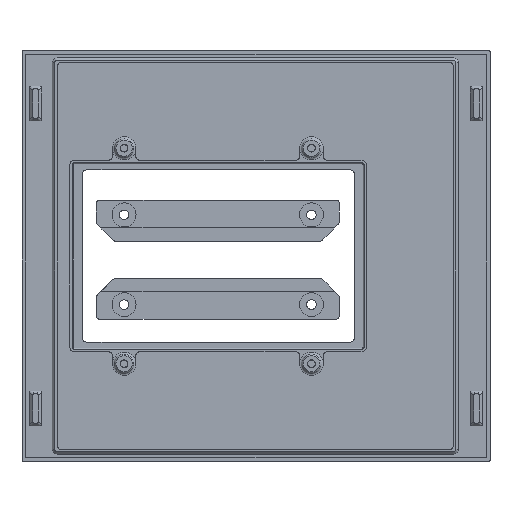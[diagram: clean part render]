
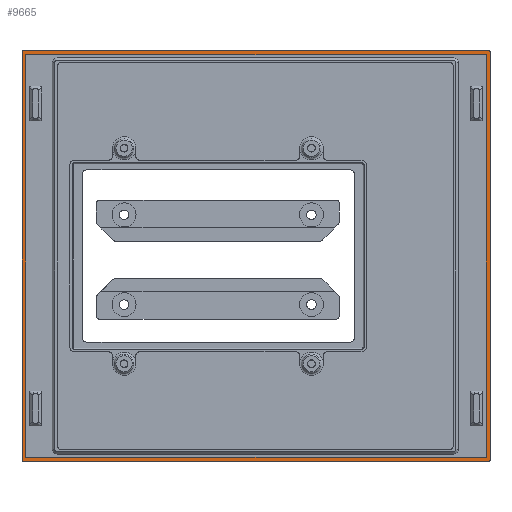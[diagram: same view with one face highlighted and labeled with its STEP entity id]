
A CAD part, top view. The second image highlights one B-rep face of the part: STEP entity #9665.
In plain terms, the highlighted planar face has unit normal (0, 0, 1).
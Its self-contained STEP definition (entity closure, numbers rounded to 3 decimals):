
#270=B_SPLINE_CURVE_WITH_KNOTS('',3,(#17057,#17058,#17059,#17060,#17061,
#17062,#17063,#17064,#17065,#17066),.UNSPECIFIED.,.F.,.F.,(4,3,3,4),(0.,
0.033,0.056,0.078),.UNSPECIFIED.);
#276=B_SPLINE_CURVE_WITH_KNOTS('',3,(#17314,#17315,#17316,#17317,#17318,
#17319,#17320,#17321,#17322,#17323),.UNSPECIFIED.,.F.,.F.,(4,3,3,4),(0.,
0.022,0.045,0.078),.UNSPECIFIED.);
#279=B_SPLINE_CURVE_WITH_KNOTS('',3,(#17561,#17562,#17563,#17564,#17565,
#17566,#17567,#17568,#17569,#17570),.UNSPECIFIED.,.F.,.F.,(4,3,3,4),(0.,
0.033,0.056,0.078),.UNSPECIFIED.);
#284=B_SPLINE_CURVE_WITH_KNOTS('',3,(#17675,#17676,#17677,#17678,#17679,
#17680,#17681,#17682,#17683,#17684),.UNSPECIFIED.,.F.,.F.,(4,3,3,4),(0.,
0.022,0.045,0.078),.UNSPECIFIED.);
#332=FACE_BOUND('',#1706,.T.);
#614=PLANE('',#10530);
#1132=FACE_OUTER_BOUND('',#1705,.T.);
#1705=EDGE_LOOP('',(#8827,#8828,#8829,#8830,#8831,#8832,#8833,#8834));
#1706=EDGE_LOOP('',(#8835,#8836,#8837,#8838));
#2443=LINE('',#17155,#3333);
#2449=LINE('',#17173,#3339);
#2511=LINE('',#17391,#3401);
#2519=LINE('',#17414,#3409);
#2563=LINE('',#17593,#3453);
#2567=LINE('',#17599,#3457);
#2588=LINE('',#17663,#3478);
#2592=LINE('',#17685,#3482);
#3333=VECTOR('',#12668,10.);
#3339=VECTOR('',#12678,10.);
#3401=VECTOR('',#12842,10.);
#3409=VECTOR('',#12858,10.);
#3453=VECTOR('',#12986,10.);
#3457=VECTOR('',#12992,10.);
#3478=VECTOR('',#13065,10.);
#3482=VECTOR('',#13073,10.);
#4582=VERTEX_POINT('',#17055);
#4583=VERTEX_POINT('',#17056);
#4606=VERTEX_POINT('',#17154);
#4611=VERTEX_POINT('',#17170);
#4612=VERTEX_POINT('',#17172);
#4649=VERTEX_POINT('',#17313);
#4669=VERTEX_POINT('',#17390);
#4676=VERTEX_POINT('',#17412);
#4713=VERTEX_POINT('',#17559);
#4714=VERTEX_POINT('',#17560);
#4717=VERTEX_POINT('',#17592);
#4735=VERTEX_POINT('',#17662);
#5878=EDGE_CURVE('',#4582,#4583,#270,.T.);
#5914=EDGE_CURVE('',#4583,#4606,#2443,.T.);
#5921=EDGE_CURVE('',#4611,#4612,#2449,.T.);
#5975=EDGE_CURVE('',#4606,#4649,#276,.T.);
#6009=EDGE_CURVE('',#4649,#4669,#2511,.F.);
#6020=EDGE_CURVE('',#4611,#4676,#2519,.T.);
#6080=EDGE_CURVE('',#4713,#4714,#279,.T.);
#6084=EDGE_CURVE('',#4717,#4612,#2563,.T.);
#6088=EDGE_CURVE('',#4713,#4582,#2567,.F.);
#6119=EDGE_CURVE('',#4714,#4735,#2588,.T.);
#6124=EDGE_CURVE('',#4735,#4669,#284,.T.);
#6125=EDGE_CURVE('',#4676,#4717,#2592,.T.);
#8827=ORIENTED_EDGE('',*,*,#6088,.F.);
#8828=ORIENTED_EDGE('',*,*,#6080,.T.);
#8829=ORIENTED_EDGE('',*,*,#6119,.T.);
#8830=ORIENTED_EDGE('',*,*,#6124,.T.);
#8831=ORIENTED_EDGE('',*,*,#6009,.F.);
#8832=ORIENTED_EDGE('',*,*,#5975,.F.);
#8833=ORIENTED_EDGE('',*,*,#5914,.F.);
#8834=ORIENTED_EDGE('',*,*,#5878,.F.);
#8835=ORIENTED_EDGE('',*,*,#6084,.T.);
#8836=ORIENTED_EDGE('',*,*,#5921,.F.);
#8837=ORIENTED_EDGE('',*,*,#6020,.T.);
#8838=ORIENTED_EDGE('',*,*,#6125,.T.);
#9665=ADVANCED_FACE('',(#1132,#332),#614,.T.);
#10530=AXIS2_PLACEMENT_3D('',#17674,#13071,#13072);
#12668=DIRECTION('',(-1.,0.,0.));
#12678=DIRECTION('',(1.,0.,0.));
#12842=DIRECTION('',(0.,-1.,0.));
#12858=DIRECTION('',(0.,1.,0.));
#12986=DIRECTION('',(0.,-1.,0.));
#12992=DIRECTION('',(0.,1.,0.));
#13065=DIRECTION('',(-1.,0.,0.));
#13071=DIRECTION('center_axis',(0.,0.,
1.));
#13072=DIRECTION('ref_axis',(0.,1.,0.));
#13073=DIRECTION('',(1.,0.,0.));
#17055=CARTESIAN_POINT('',(210.232,26.596,2.));
#17056=CARTESIAN_POINT('',(209.737,26.101,2.));
#17057=CARTESIAN_POINT('Ctrl Pts',(210.232,26.596,2.));
#17058=CARTESIAN_POINT('Ctrl Pts',(210.232,26.496,2.));
#17059=CARTESIAN_POINT('Ctrl Pts',(210.197,26.381,2.));
#17060=CARTESIAN_POINT('Ctrl Pts',(210.126,26.29,2.));
#17061=CARTESIAN_POINT('Ctrl Pts',(210.078,26.229,2.));
#17062=CARTESIAN_POINT('Ctrl Pts',(210.013,26.179,2.));
#17063=CARTESIAN_POINT('Ctrl Pts',(209.945,26.147,2.));
#17064=CARTESIAN_POINT('Ctrl Pts',(209.876,26.115,2.));
#17065=CARTESIAN_POINT('Ctrl Pts',(209.804,26.101,2.));
#17066=CARTESIAN_POINT('Ctrl Pts',(209.737,26.101,2.));
#17154=CARTESIAN_POINT('',(15.428,26.101,2.));
#17155=CARTESIAN_POINT('',(74.632,26.101,2.));
#17170=CARTESIAN_POINT('',(16.583,27.901,2.));
#17172=CARTESIAN_POINT('',(208.582,27.901,2.));
#17173=CARTESIAN_POINT('',(70.482,27.901,2.));
#17313=CARTESIAN_POINT('',(14.933,26.596,2.));
#17314=CARTESIAN_POINT('Ctrl Pts',(15.428,26.101,2.));
#17315=CARTESIAN_POINT('Ctrl Pts',(15.361,26.101,2.));
#17316=CARTESIAN_POINT('Ctrl Pts',(15.288,26.115,2.));
#17317=CARTESIAN_POINT('Ctrl Pts',(15.22,26.147,2.));
#17318=CARTESIAN_POINT('Ctrl Pts',(15.151,26.179,2.));
#17319=CARTESIAN_POINT('Ctrl Pts',(15.087,26.229,2.));
#17320=CARTESIAN_POINT('Ctrl Pts',(15.039,26.29,2.));
#17321=CARTESIAN_POINT('Ctrl Pts',(14.967,26.381,2.));
#17322=CARTESIAN_POINT('Ctrl Pts',(14.933,26.496,2.));
#17323=CARTESIAN_POINT('Ctrl Pts',(14.933,26.596,2.));
#17390=CARTESIAN_POINT('',(14.933,197.093,2.));
#17391=CARTESIAN_POINT('',(14.933,51.745,2.));
#17412=CARTESIAN_POINT('',(16.583,195.788,2.));
#17414=CARTESIAN_POINT('',(16.583,-2.812,2.));
#17559=CARTESIAN_POINT('',(210.232,197.093,2.));
#17560=CARTESIAN_POINT('',(209.737,197.588,2.));
#17561=CARTESIAN_POINT('Ctrl Pts',(210.232,197.093,2.));
#17562=CARTESIAN_POINT('Ctrl Pts',(210.232,197.193,2.));
#17563=CARTESIAN_POINT('Ctrl Pts',(210.197,197.309,2.));
#17564=CARTESIAN_POINT('Ctrl Pts',(210.126,197.4,2.));
#17565=CARTESIAN_POINT('Ctrl Pts',(210.078,197.461,2.));
#17566=CARTESIAN_POINT('Ctrl Pts',(210.013,197.511,2.));
#17567=CARTESIAN_POINT('Ctrl Pts',(209.945,197.542,2.));
#17568=CARTESIAN_POINT('Ctrl Pts',(209.876,197.574,2.));
#17569=CARTESIAN_POINT('Ctrl Pts',(209.804,197.588,2.));
#17570=CARTESIAN_POINT('Ctrl Pts',(209.737,197.588,2.));
#17592=CARTESIAN_POINT('',(208.582,195.788,2.));
#17593=CARTESIAN_POINT('',(208.582,226.501,2.));
#17599=CARTESIAN_POINT('',(210.232,128.088,2.));
#17662=CARTESIAN_POINT('',(15.428,197.588,2.));
#17663=CARTESIAN_POINT('',(74.632,197.588,2.));
#17674=CARTESIAN_POINT('Origin',(138.682,155.701,2.));
#17675=CARTESIAN_POINT('Ctrl Pts',(15.428,197.588,2.));
#17676=CARTESIAN_POINT('Ctrl Pts',(15.361,197.588,2.));
#17677=CARTESIAN_POINT('Ctrl Pts',(15.288,197.574,2.));
#17678=CARTESIAN_POINT('Ctrl Pts',(15.22,197.542,2.));
#17679=CARTESIAN_POINT('Ctrl Pts',(15.151,197.511,2.));
#17680=CARTESIAN_POINT('Ctrl Pts',(15.087,197.461,2.));
#17681=CARTESIAN_POINT('Ctrl Pts',(15.039,197.4,2.));
#17682=CARTESIAN_POINT('Ctrl Pts',(14.967,197.309,2.));
#17683=CARTESIAN_POINT('Ctrl Pts',(14.933,197.193,2.));
#17684=CARTESIAN_POINT('Ctrl Pts',(14.933,197.093,2.));
#17685=CARTESIAN_POINT('',(70.482,195.788,2.));
